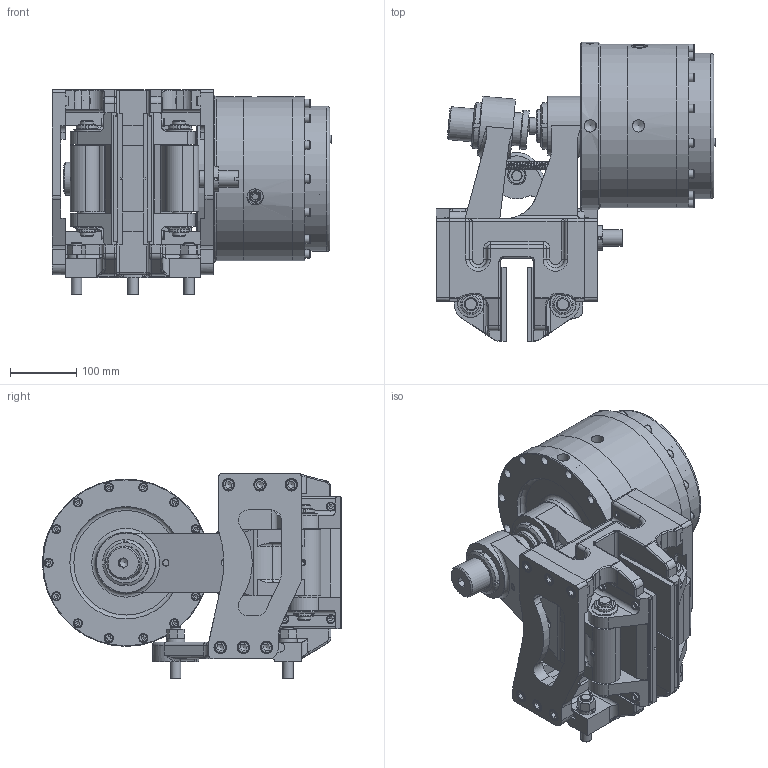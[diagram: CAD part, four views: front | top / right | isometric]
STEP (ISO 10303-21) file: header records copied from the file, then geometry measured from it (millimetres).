
FILE_DESCRIPTION(/* description */ ('','CAx-IF Rec.Pracs.---Representation and Presentation of Product Manufacturing Information (PMI)---4.0---2014-10-13'),/* implementation_level */ '2;1');
FILE_NAME(/* name */ 'X:\INVENTOR\DISEGNI\19_Pinze\STEP x Sito\PNEUM-NEGATIVE-PR\19_76_064_05 PPT-N064_30_PR.stp',/* time_stamp */ '2018-10-25T16:39:19+02:00',/* author */ ('stefano'),/* organization */ (''),/* preprocessor_version */ 'ST-DEVELOPER v17',/* originating_system */ 'Autodesk Inventor 2018',/* authorisation */ '');
FILE_SCHEMA (('AP242_MANAGED_MODEL_BASED_3D_ENGINEERING_MIM_LF { 1 0 10303 442 1 1 4 }'));
Products named in the file (1): 19_76_064_05 PPT-N064_30_PR_Substitute_1
Bounding box: 423.1 x 452.5 x 310 mm (x, y, z)
Volume: 12345931.6 mm3; surface area: 1586810.4 mm2
Topology: 1 solids, 1 shells, 2162 faces, 5970 edges, 3947 vertices
Faces by surface type: plane 1078, cylinder 606, torus 214, cone 212, bspline 32, sphere 20
Full cylindrical faces by diameter (mm): 1.8 x2, 3 x1, 4.917 x6, 5 x4, 5.188 x1, 5.25 x4, 6.3 x6, 6.647 x1, 6.917 x1, 7.4 x1, 7.5 x2, 8 x8, 8.25 x1, 8.376 x1, 8.5 x8, 8.917 x2, 9 x1, 9.188 x1, 10 x6, 10.106 x11, 10.5 x5, 10.647 x2, 11.445 x2, 12 x14, 12.5 x13, 13 x36, 13.157 x2, 13.5 x22, 14 x1, 15 x2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
Entity records: 81635 total; most frequent: CARTESIAN_POINT 24400, DIRECTION 11767, ORIENTED_EDGE 11750, EDGE_CURVE 5875, AXIS2_PLACEMENT_3D 4561, VERTEX_POINT 3947, LINE 2645, VECTOR 2645
